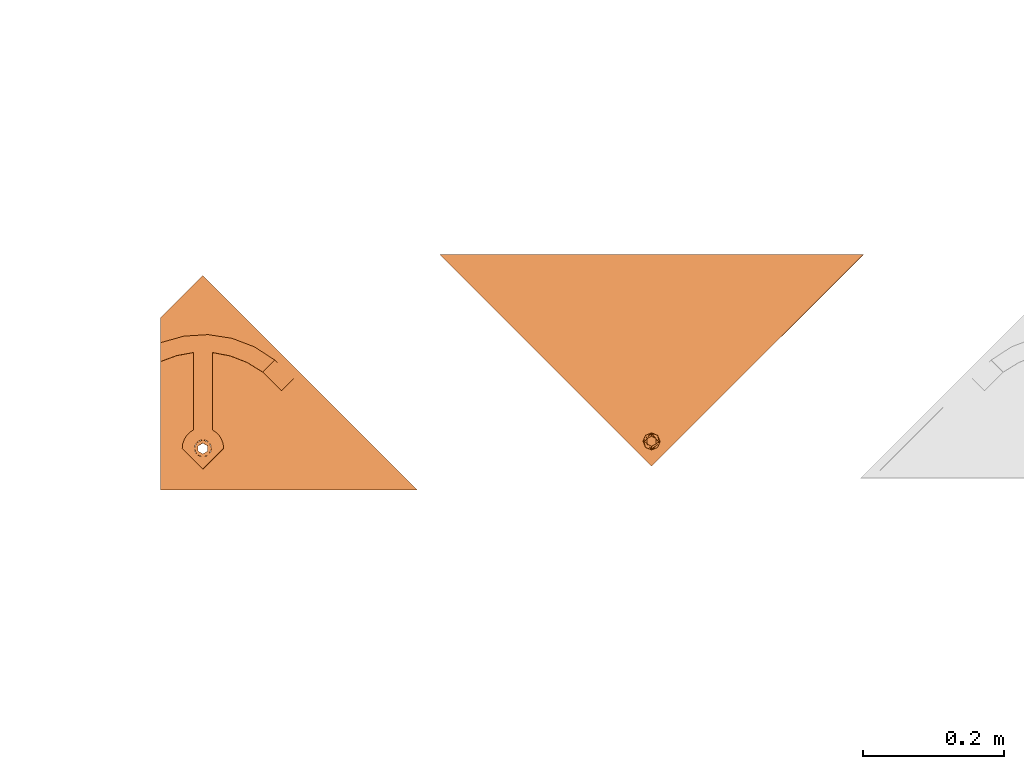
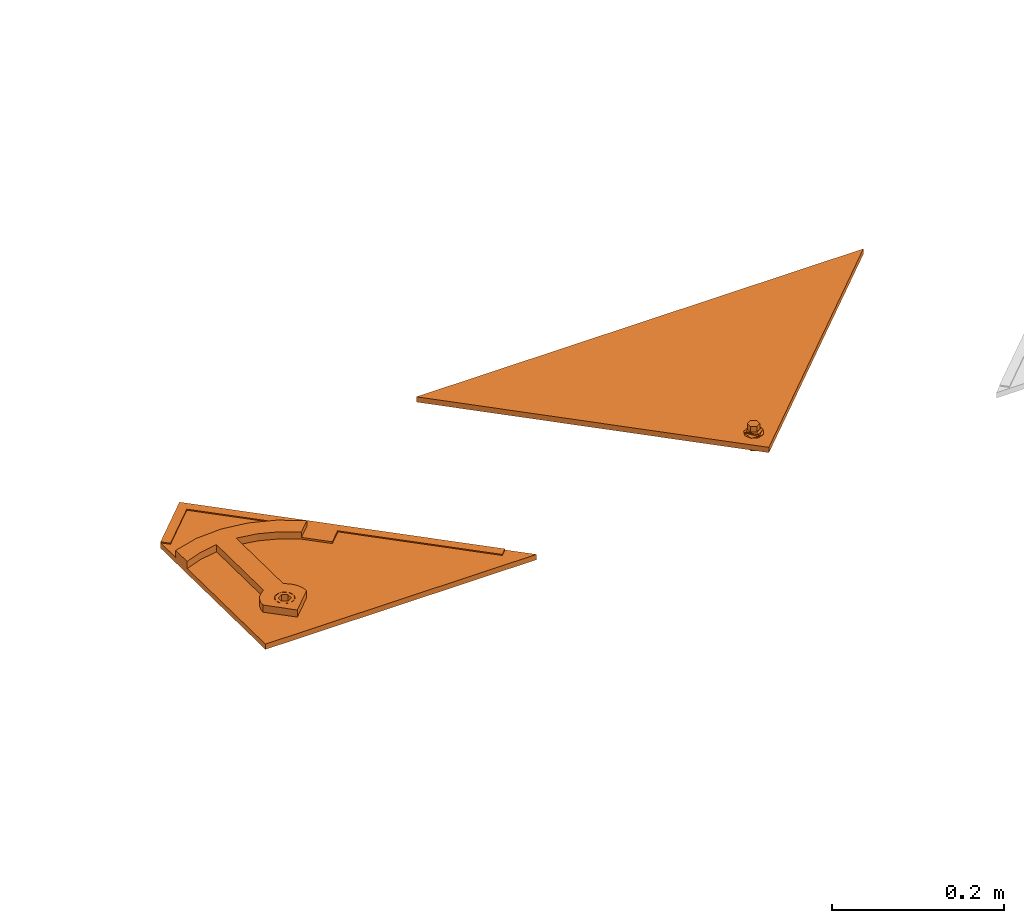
# One storey, part 124 of 151: 2 proxies.
"""IFC2X3 building model written with IfcOpenShell, lengths in millimetres."""

import ifcopenshell
import ifcopenshell.guid

model = None  # the IFC model being written
_history = None  # IfcOwnerHistory: only IFC2X3 demands one
_inside = {}  # id of a spatial element -> (the spatial element, [elements in it])
_under = {}  # id of a project, library or spatial element -> (it, [spatial elements below it])
_declared = {}  # id of a project -> (the project, [libraries it declares])
_typed = {}  # id of a type object -> (the type object, [elements of that type])
_made_of = {}  # id of a material, layer set ... -> (it, [elements and type objects made of it])


def new_model(schema):
    """Start an empty IFC model of exactly this schema.

    Asked for "IFC4X3", IfcOpenShell would pick the latest addendum, in which some entities
    have other attributes; the version numbers below select the first issue.
    IFC2X3 requires an IfcOwnerHistory on every rooted entity: one is made here for all.
    """
    global model, _history
    if schema == "IFC4X3":
        model = ifcopenshell.file(schema_version=(4, 3, 0, 0))
    else:
        model = ifcopenshell.file(schema=schema)
    _inside.clear()
    _under.clear()
    _declared.clear()
    _typed.clear()
    _made_of.clear()
    _history = None
    if model.schema == "IFC2X3":
        org = make("IfcOrganization", Name="unknown")
        user = make(
            "IfcPersonAndOrganization",
            ThePerson=make("IfcPerson", FamilyName="unknown"),
            TheOrganization=org,
        )
        app = make(
            "IfcApplication",
            ApplicationDeveloper=org,
            Version="unknown",
            ApplicationFullName="unknown",
            ApplicationIdentifier="unknown",
        )
        _history = make(
            "IfcOwnerHistory",
            OwningUser=user,
            OwningApplication=app,
            ChangeAction="ADDED",
            CreationDate=0,
        )
    return model


def make(cls, **values):
    """One entity of the class cls with the attributes given. An attribute that is None is left unset."""
    return model.create_entity(
        cls, **{name: value for name, value in values.items() if value is not None}
    )


def entity(cls, *values):
    """Any entity or typed value of the class cls, its attributes in the order of the schema. None: left unset."""
    e = model.create_entity(cls)
    for i, value in enumerate(values):
        if value is not None:
            e[i] = value
    return e


def rooted(cls, **values):
    """An entity with a GlobalId (a new one), such as an element, a storey or a relation."""
    return make(cls, GlobalId=ifcopenshell.guid.new(), OwnerHistory=_history, **values)


def si_unit(unit_type, name, prefix=None):
    """IfcSIUnit, for example si_unit("LENGTHUNIT", "METRE", prefix="MILLI")."""
    return make("IfcSIUnit", UnitType=unit_type, Prefix=prefix, Name=name)


def converted_unit(unit_type, name, factor, base, dimensions=None, offset=None):
    """IfcConversionBasedUnit, such as the inch: factor (a typed value) times the base unit."""
    return make(
        "IfcConversionBasedUnit"
        if offset is None
        else "IfcConversionBasedUnitWithOffset",
        ConversionOffset=offset,
        Dimensions=None
        if dimensions is None
        else entity("IfcDimensionalExponents", *dimensions),
        UnitType=unit_type,
        Name=name,
        ConversionFactor=make(
            "IfcMeasureWithUnit", ValueComponent=factor, UnitComponent=base
        ),
    )


def derived_unit(unit_type, elements):
    """IfcDerivedUnit: a product of units, each with its exponent."""
    return make(
        "IfcDerivedUnit",
        Elements=[
            make("IfcDerivedUnitElement", Unit=unit, Exponent=power)
            for unit, power in elements
        ],
        UnitType=unit_type,
    )


def assignment(units):
    """IfcUnitAssignment: the units of a project."""
    return None if units is None else make("IfcUnitAssignment", Units=units)


def point(xyz):
    """IfcCartesianPoint."""
    return None if xyz is None else make("IfcCartesianPoint", Coordinates=xyz)


def direction(xyz):
    """IfcDirection."""
    return None if xyz is None else make("IfcDirection", DirectionRatios=xyz)


def frame(location, z_axis=None, x_axis=None):
    """IfcAxis2Placement3D, a coordinate frame: its origin and axes. An axis left out is left unset."""
    return make(
        "IfcAxis2Placement3D",
        Location=point(location),
        Axis=direction(z_axis),
        RefDirection=direction(x_axis),
    )


def origin():
    """The frame at (0, 0, 0) with its axes left unset."""
    return frame((0.0, 0.0, 0.0))


def place(relative_to, where):
    """IfcLocalPlacement: puts the frame where relative to a parent placement (None: the world)."""
    return make(
        "IfcLocalPlacement", PlacementRelTo=relative_to, RelativePlacement=where
    )


def context(
    kind, dimensions, precision=None, world=None, true_north=None, identifier=None
):
    """IfcGeometricRepresentationContext, for example the 3D "Model" context."""
    return make(
        "IfcGeometricRepresentationContext",
        ContextIdentifier=identifier,
        ContextType=kind,
        CoordinateSpaceDimension=dimensions,
        Precision=precision,
        WorldCoordinateSystem=world,
        TrueNorth=true_north,
    )


def subcontext(parent, identifier, kind, view, scale=None):
    """IfcGeometricRepresentationSubContext, for example "Body" below "Model"."""
    return make(
        "IfcGeometricRepresentationSubContext",
        ContextIdentifier=identifier,
        ContextType=kind,
        ParentContext=parent,
        TargetScale=scale,
        TargetView=view,
    )


def project(units=None, contexts=None):
    """IfcProject with its units and contexts."""
    return rooted(
        "IfcProject",
        Name="project",
        RepresentationContexts=contexts,
        UnitsInContext=assignment(units),
    )


def spatial(cls, under=None, at=None, **own):
    """A site, building, storey or space (cls), placed at a placement, below another one or the project."""
    s = rooted(cls, ObjectPlacement=at, **own)
    if under is not None:
        _under.setdefault(under.id(), (under, []))[1].append(s)
    return s


def faces_of(points, faces, orient=None, outer=None):
    """IfcFace entities. A face is a list of loops; a loop is a list of indices into points, from 0.

    orient and outer hold one flag for each loop. By default every Orientation is true, the
    first loop of a face is its IfcFaceOuterBound and the others are IfcFaceBound.
    """
    made = []
    for i, loops in enumerate(faces):
        bounds = []
        for j, loop in enumerate(loops):
            is_outer = j == 0 if outer is None else outer[i][j]
            bounds.append(
                make(
                    "IfcFaceOuterBound" if is_outer else "IfcFaceBound",
                    Bound=make("IfcPolyLoop", Polygon=[points[k] for k in loop]),
                    Orientation=True if orient is None else orient[i][j],
                )
            )
        made.append(make("IfcFace", Bounds=bounds))
    return made


def faceted_brep(points, faces, orient=None, outer=None, voids=None):
    """IfcFacetedBrep: a solid bounded by flat faces; with voids (closed shells), ...WithVoids."""
    shared = [point(p) for p in points]
    hull = make("IfcClosedShell", CfsFaces=faces_of(shared, faces, orient, outer))
    if voids is None:
        return make("IfcFacetedBrep", Outer=hull)
    return make(
        "IfcFacetedBrepWithVoids",
        Outer=hull,
        Voids=[
            make(cls, CfsFaces=faces_of(shared, fs, o, b)) for cls, fs, o, b in voids
        ],
    )


def shape(context_of_items, identifier, shape_type, items):
    """IfcShapeRepresentation: the items that make up one representation, for example the "Body"."""
    return make(
        "IfcShapeRepresentation",
        ContextOfItems=context_of_items,
        RepresentationIdentifier=identifier,
        RepresentationType=shape_type,
        Items=items,
    )


def source(mapping_origin, context_of_items, identifier, shape_type, items):
    """IfcRepresentationMap: a shape defined once, which mapped items show again and again."""
    return make(
        "IfcRepresentationMap",
        MappingOrigin=mapping_origin,
        MappedRepresentation=shape(context_of_items, identifier, shape_type, items),
    )


def transform(
    local_origin,
    x_axis=None,
    y_axis=None,
    z_axis=None,
    scale=None,
    scale2=None,
    scale3=None,
    uniform=True,
):
    """IfcCartesianTransformationOperator3D, or its non-uniform kind. x_axis, y_axis, z_axis: its Axis1, 2, 3."""
    if uniform:
        return make(
            "IfcCartesianTransformationOperator3D",
            Axis1=direction(x_axis),
            Axis2=direction(y_axis),
            LocalOrigin=point(local_origin),
            Scale=scale,
            Axis3=direction(z_axis),
        )
    return make(
        "IfcCartesianTransformationOperator3DnonUniform",
        Axis1=direction(x_axis),
        Axis2=direction(y_axis),
        LocalOrigin=point(local_origin),
        Scale=scale,
        Axis3=direction(z_axis),
        Scale2=scale2,
        Scale3=scale3,
    )


def mapped(mapping_source, mapping_target):
    """IfcMappedItem: shows the shape of a source again, moved by a transform."""
    return make(
        "IfcMappedItem", MappingSource=mapping_source, MappingTarget=mapping_target
    )


def material(Name=None, Category=None):
    """IfcMaterial."""
    return make("IfcMaterial", Name=Name, Category=Category)


def material_list(materials):
    """IfcMaterialList."""
    return make("IfcMaterialList", Materials=materials)


def made_of(thing, what):
    """Note that an element or type object is made of a material, layer set ...; save() writes the relation."""
    if what is not None:
        _made_of.setdefault(what.id(), (what, []))[1].append(thing)
    return thing


def type_object(cls, material=None, **own):
    """A type object (cls), such as IfcWallType, which elements share."""
    return made_of(rooted(cls, **own), material)


def type_shapes(of_type, sources):
    """Give a type object the sources (RepresentationMaps) that its elements show as mapped items."""
    of_type.RepresentationMaps = sources


def element(
    cls,
    number,
    at=None,
    inside=None,
    cuts=None,
    type_object=None,
    material=None,
    context=None,
    identifier="Body",
    shape_type=None,
    held_by="IfcProductDefinitionShape",
    body=None,
    shapes=None,
    **own,
):
    """One element of the class cls, such as IfcWall. Its Tag is "e" and its number.

    at: its placement. inside: the storey or other place that contains it. cuts: it is an
    opening in that element (IfcRelVoidsElement). A single representation is given by context,
    identifier, shape_type and body (its items); several are given by shapes. held_by: the class
    of the entity that holds the representations. save() writes the other relations.
    """
    e = rooted(cls, Tag="e%d" % number, ObjectPlacement=at, **own)
    if body is not None:
        shapes = [shape(context, identifier, shape_type, body)]
    if shapes is not None:
        e.Representation = make(held_by, Representations=shapes)
    if inside is not None:
        _inside.setdefault(inside.id(), (inside, []))[1].append(e)
    if cuts is not None:
        rooted(
            "IfcRelVoidsElement", RelatingBuildingElement=cuts, RelatedOpeningElement=e
        )
    if type_object is not None:
        _typed.setdefault(type_object.id(), (type_object, []))[1].append(e)
    return made_of(e, material)


def aggregate(whole, parts):
    """IfcRelAggregates: a whole, such as a stair, and the parts it consists of."""
    return rooted("IfcRelAggregates", RelatingObject=whole, RelatedObjects=parts)


def save(model, path):
    """Write the relations noted so far, then the file.

    IfcRelAggregates (storeys below a building ...), IfcRelContainedInSpatialStructure (elements
    in a storey), IfcRelDefinesByType, IfcRelAssociatesMaterial and IfcRelDeclares: one each for
    every whole, place, type object, material and project.
    """
    for whole, parts in _under.values():
        aggregate(whole, parts)
    for where, things in _inside.values():
        rooted(
            "IfcRelContainedInSpatialStructure",
            RelatedElements=things,
            RelatingStructure=where,
        )
    for kind, things in _typed.values():
        rooted("IfcRelDefinesByType", RelatedObjects=things, RelatingType=kind)
    for what, things in _made_of.values():
        rooted("IfcRelAssociatesMaterial", RelatedObjects=things, RelatingMaterial=what)
    for by, libraries in _declared.values():
        rooted("IfcRelDeclares", RelatingContext=by, RelatedDefinitions=libraries)
    model.write(path)


model = new_model("IFC2X3")

# Units and contexts
model_context = context("Model", 3, precision=0.01, world=origin(), true_north=direction((6.12303176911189e-17, 1.0)))
body_context = subcontext(model_context, "Body", "Model", "MODEL_VIEW")
ifc_project = project(units=[si_unit("LENGTHUNIT", "METRE", prefix="MILLI"), si_unit("AREAUNIT", "SQUARE_METRE"), si_unit("VOLUMEUNIT", "CUBIC_METRE"), converted_unit("PLANEANGLEUNIT", "DEGREE", entity("IfcRatioMeasure", 0.0174532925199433), si_unit("PLANEANGLEUNIT", "RADIAN"), dimensions=[0, 0, 0, 0, 0, 0, 0]), si_unit("MASSUNIT", "GRAM", prefix="KILO"), derived_unit("MASSDENSITYUNIT", [(si_unit("MASSUNIT", "GRAM", prefix="KILO"), 1), (si_unit("LENGTHUNIT", "METRE"), -3)]), si_unit("TIMEUNIT", "SECOND"), si_unit("FREQUENCYUNIT", "HERTZ"), si_unit("THERMODYNAMICTEMPERATUREUNIT", "DEGREE_CELSIUS"), derived_unit("THERMALTRANSMITTANCEUNIT", [(si_unit("MASSUNIT", "GRAM", prefix="KILO"), 1), (si_unit("THERMODYNAMICTEMPERATUREUNIT", "KELVIN"), -1), (si_unit("TIMEUNIT", "SECOND"), -3)]), derived_unit("VOLUMETRICFLOWRATEUNIT", [(si_unit("LENGTHUNIT", "METRE"), 3), (si_unit("TIMEUNIT", "SECOND"), -1)]), si_unit("ELECTRICCURRENTUNIT", "AMPERE"), si_unit("ELECTRICVOLTAGEUNIT", "VOLT"), si_unit("POWERUNIT", "WATT"), si_unit("FORCEUNIT", "NEWTON", prefix="KILO"), si_unit("ILLUMINANCEUNIT", "LUX"), si_unit("LUMINOUSFLUXUNIT", "LUMEN"), si_unit("LUMINOUSINTENSITYUNIT", "CANDELA"), derived_unit("USERDEFINED", [(si_unit("MASSUNIT", "GRAM", prefix="KILO"), -1), (si_unit("LENGTHUNIT", "METRE"), -2), (si_unit("TIMEUNIT", "SECOND"), 3), (si_unit("LUMINOUSFLUXUNIT", "LUMEN"), 1)]), derived_unit("LINEARVELOCITYUNIT", [(si_unit("LENGTHUNIT", "METRE"), 1), (si_unit("TIMEUNIT", "SECOND"), -1)]), si_unit("PRESSUREUNIT", "PASCAL"), derived_unit("USERDEFINED", [(si_unit("LENGTHUNIT", "METRE"), -2), (si_unit("MASSUNIT", "GRAM", prefix="KILO"), 1), (si_unit("TIMEUNIT", "SECOND"), -2)])], contexts=[model_context])

# Site, building, storey
site_placement = place(None, origin())
site = spatial("IfcSite", under=ifc_project, at=site_placement, Name="Default", CompositionType="ELEMENT")
building_placement = place(site_placement, origin())
building = spatial("IfcBuilding", under=site, at=building_placement, CompositionType="ELEMENT")
storey_placement = place(building_placement, origin())
storey = spatial("IfcBuildingStorey", under=building, at=storey_placement, Name="Level 1", CompositionType="ELEMENT", Elevation=0.0)

# Proxies
ifc_material_1 = material(Name="Rubber - Sunstyle - Black")
ifc_material_2 = material(Name="Glass - Sunstyle - Tainted Black")
ifc_material_list_1 = material_list([ifc_material_1, ifc_material_2])
ifc_material_list_2 = material_list([ifc_material_1, ifc_material_2])
building_element_proxy_type_1 = type_object("IfcBuildingElementProxyType", Name="Corner Bottom Small Left - Black", PredefinedType="NOTDEFINED", material=ifc_material_list_2)
shared_shape_1 = source(origin(), body_context, "Body", "Brep", [
    faceted_brep([(330.847757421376, 18.4932261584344, 12.2894055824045), (339.332443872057, 26.9779126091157, 12.1473081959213), (339.332443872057, 27.0030303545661, 13.6470978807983), (330.847757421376, 18.5183439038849, 13.7891952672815), (61.6993486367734, 287.566165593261, 7.7831033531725), (10.0799586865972, 235.961249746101, 8.64735729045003), (1.59527223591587, 244.445936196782, 8.50525990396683), (61.6993486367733, 304.533159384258, 7.49894842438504), (61.6993486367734, 304.558277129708, 8.9987381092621), (1.59527223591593, 244.471053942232, 10.0050495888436), (10.0799586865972, 235.986367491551, 10.147146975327), (61.6993486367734, 287.591283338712, 9.2828930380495)], [[[0, 1, 2, 3]], [[1, 0, 4, 5, 6, 7]], [[2, 1, 7, 8]], [[3, 2, 8, 9, 10, 11]], [[0, 3, 11, 4]], [[5, 10, 9, 6]], [[8, 7, 6, 9]], [[4, 11, 10, 5]]]),
    faceted_brep([(61.6990261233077, 46.946835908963, 21.8142807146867), (61.6990261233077, 51.4462045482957, 21.7389274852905), (53.0953219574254, 50.5101071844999, 21.7546047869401), (70.3027302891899, 50.5101071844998, 21.7546047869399), (68.3392547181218, 55.2794047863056, 21.6747309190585), (73.8665012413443, 59.1126050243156, 21.6105343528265), (68.3392547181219, 62.9458052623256, 21.5463377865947), (70.30273028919, 67.7151028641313, 21.4664639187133), (61.6990261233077, 66.7790055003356, 21.4821412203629), (61.6990261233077, 71.2783741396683, 21.4067879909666), (53.0953219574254, 67.7151028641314, 21.4664639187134), (55.0587975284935, 62.9458052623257, 21.5463377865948), (49.5315510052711, 59.1126050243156, 21.6105343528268), (55.0587975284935, 55.2794047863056, 21.6747309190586), (55.0587978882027, 62.6778824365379, 5.54858115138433), (61.6990261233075, 66.5110824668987, 5.48438458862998), (55.0587978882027, 55.0114823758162, 5.6769742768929), (61.6990261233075, 51.1782823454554, 5.74117083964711), (68.3392543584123, 55.0114823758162, 5.67697427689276), (68.3392543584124, 62.6778824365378, 5.5485811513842), (53.0953219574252, 50.2421845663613, 5.75684814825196), (61.6990261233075, 46.6789132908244, 5.81652407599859), (49.5315510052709, 58.844682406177, 5.61277771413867), (53.0953219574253, 67.4471802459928, 5.4687072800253), (61.6990261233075, 71.0104515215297, 5.4090313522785), (70.3027302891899, 67.4471802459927, 5.46870728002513), (73.8665012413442, 58.844682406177, 5.61277771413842), (70.3027302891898, 50.2421845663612, 5.75684814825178)], [[[0, 1, 2]], [[1, 0, 3]], [[3, 4, 1]], [[4, 3, 5]], [[6, 4, 5]], [[5, 7, 6]], [[7, 8, 6]], [[8, 7, 9]], [[8, 9, 10]], [[10, 11, 8]], [[12, 11, 10]], [[2, 13, 12]], [[12, 13, 11]], [[13, 2, 1]], [[8, 11, 14, 15]], [[11, 13, 16, 14]], [[13, 1, 17, 16]], [[1, 4, 18, 17]], [[4, 6, 19, 18]], [[6, 8, 15, 19]], [[20, 17, 21]], [[17, 20, 16]], [[22, 16, 20]], [[14, 16, 22]], [[23, 14, 22]], [[15, 14, 23]], [[23, 24, 15]], [[24, 25, 15]], [[19, 15, 25]], [[19, 25, 26]], [[26, 18, 19]], [[26, 27, 18]], [[17, 18, 27]], [[27, 21, 17]], [[24, 23, 10, 9]], [[10, 23, 22, 12]], [[20, 21, 0, 2]], [[20, 2, 12, 22]], [[21, 27, 3, 0]], [[3, 27, 26, 5]], [[25, 24, 9, 7]], [[25, 7, 5, 26]]]),
    faceted_brep([(1.59527223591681, 244.445936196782, 8.50525990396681), (58.5931975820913, 70.7020897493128, 11.4150370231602), (61.6990261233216, 71.1109225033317, 11.4081900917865), (55.6990261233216, 69.5034527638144, 11.4351112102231), (64.8048546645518, 70.7020897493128, 11.4150370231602), (53.213744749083, 67.596696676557, 11.4670446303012), (51.3067212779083, 65.1117637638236, 11.5086610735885), (1.5952722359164, 0.125588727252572, 12.5970178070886), (67.6990261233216, 69.5034527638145, 11.4351112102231), (61.6993486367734, 304.533159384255, 7.49894842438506), (50.1079162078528, 62.2179980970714, 11.5571244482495), (49.6990261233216, 59.1126050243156, 11.6091320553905), (50.1079162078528, 56.0072119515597, 11.6611396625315), (51.3067212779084, 53.1134462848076, 11.7096030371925), (53.2137447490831, 50.6285133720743, 11.7512194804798), (55.6990261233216, 48.7217572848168, 11.7831529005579), (58.5931975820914, 47.5231202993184, 11.8032270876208), (61.6990261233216, 47.1142875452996, 11.8100740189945), (64.8048546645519, 47.5231202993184, 11.8032270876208), (67.6990261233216, 48.7217572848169, 11.7831529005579), (366.192299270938, 0.125588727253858, 12.5970178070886), (72.0913309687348, 65.1117637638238, 11.5086610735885), (73.2901360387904, 62.2179980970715, 11.5571244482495), (73.6990261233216, 59.1126050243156, 11.6091320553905), (70.1843074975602, 50.6285133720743, 11.7512194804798), (72.0913309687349, 53.1134462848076, 11.7096030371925), (73.2901360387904, 56.0072119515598, 11.6611396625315), (70.1843074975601, 67.596696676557, 11.4670446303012), (1.5952722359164, 0.0, 5.09806938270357), (55.6990261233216, 48.5961685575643, 4.2842044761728), (58.5931975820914, 47.3975315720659, 4.30427866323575), (53.2137447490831, 50.5029246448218, 4.25227105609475), (61.6990261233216, 46.9886988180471, 4.3111255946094), (51.3067212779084, 52.9878575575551, 4.21065461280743), (50.1079162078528, 55.8816232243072, 4.16219123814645), (49.6990261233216, 58.9870162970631, 4.11018363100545), (50.1079162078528, 62.0924093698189, 4.05817602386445), (64.8048546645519, 47.3975315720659, 4.30427866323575), (67.6990261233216, 48.5961685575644, 4.2842044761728), (366.192299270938, 0.0, 5.09806938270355), (51.3067212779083, 64.9861750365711, 4.00971264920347), (1.59527223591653, 244.320347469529, 1.00631147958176), (53.213744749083, 67.4711079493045, 3.96809620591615), (55.6990261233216, 69.3778640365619, 3.93616278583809), (58.5931975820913, 70.5765010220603, 3.91608859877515), (61.6990261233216, 70.9853337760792, 3.90924166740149), (64.8048546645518, 70.5765010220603, 3.91608859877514), (67.6990261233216, 69.377864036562, 3.93616278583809), (61.6993486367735, 304.407570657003, 0.0), (72.0913309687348, 64.9861750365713, 4.00971264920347), (70.1843074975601, 67.4711079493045, 3.96809620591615), (70.1843074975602, 50.5029246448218, 4.25227105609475), (72.0913309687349, 52.9878575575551, 4.21065461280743), (73.2901360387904, 55.8816232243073, 4.16219123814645), (73.6990261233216, 58.9870162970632, 4.11018363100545), (73.2901360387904, 62.092409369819, 4.05817602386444)], [[[0, 1, 2]], [[1, 0, 3]], [[0, 2, 4]], [[5, 3, 0]], [[6, 5, 0]], [[6, 0, 7]], [[8, 0, 4]], [[0, 8, 9]], [[7, 10, 6]], [[11, 10, 7]], [[12, 11, 7]], [[13, 12, 7]], [[7, 14, 13]], [[14, 7, 15]], [[16, 15, 7]], [[7, 17, 16]], [[17, 7, 18]], [[19, 18, 7]], [[20, 19, 7]], [[9, 21, 20]], [[20, 21, 22]], [[20, 22, 23]], [[19, 20, 24]], [[25, 24, 20]], [[26, 25, 20]], [[26, 20, 23]], [[9, 8, 27]], [[27, 21, 9]], [[28, 29, 30]], [[29, 28, 31]], [[28, 30, 32]], [[33, 31, 28]], [[34, 33, 28]], [[35, 34, 28]], [[28, 36, 35]], [[37, 28, 32]], [[37, 38, 28]], [[28, 38, 39]], [[36, 28, 40]], [[28, 41, 40]], [[42, 40, 41]], [[41, 43, 42]], [[43, 41, 44]], [[45, 44, 41]], [[41, 46, 45]], [[41, 47, 46]], [[47, 41, 48]], [[49, 48, 39]], [[50, 47, 48]], [[48, 49, 50]], [[38, 51, 39]], [[51, 52, 39]], [[52, 53, 39]], [[39, 53, 54]], [[55, 39, 54]], [[49, 39, 55]], [[11, 35, 36, 10]], [[10, 36, 40, 6]], [[3, 5, 42, 43]], [[40, 42, 5, 6]], [[1, 3, 43, 44]], [[45, 2, 1, 44]], [[4, 46, 47, 8]], [[8, 47, 50, 27]], [[22, 21, 49, 55]], [[50, 49, 21, 27]], [[23, 22, 55, 54]], [[4, 2, 45, 46]], [[23, 54, 53, 26]], [[26, 53, 52, 25]], [[19, 24, 51, 38]], [[52, 51, 24, 25]], [[18, 19, 38, 37]], [[32, 17, 18, 37]], [[16, 30, 29, 15]], [[15, 29, 31, 14]], [[12, 13, 33, 34]], [[31, 33, 13, 14]], [[11, 12, 34, 35]], [[16, 17, 32, 30]], [[0, 9, 48, 41]], [[7, 0, 41, 28]], [[20, 7, 28, 39]], [[9, 20, 39, 48]]]),
    faceted_brep([(1.59527223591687, 209.239382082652, 19.0962843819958), (1.59527223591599, 182.513149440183, 19.5438822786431), (24.4390403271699, 190.969673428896, 19.4022565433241), (34.6448586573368, 218.551914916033, 18.9403226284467), (48.3990261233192, 195.36105911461, 19.3287117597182), (68.9162632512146, 220.671424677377, 18.9048261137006), (74.999026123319, 195.361059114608, 19.3287117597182), (74.99902612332, 85.4841763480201, 21.1688761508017), (48.3990261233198, 85.4841763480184, 21.1688761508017), (61.6990261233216, 71.2783741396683, 21.4067879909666), (58.5931975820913, 70.8695413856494, 21.4136349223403), (55.6990261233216, 69.670904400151, 21.4337091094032), (42.9949199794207, 81.9461281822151, 21.2281296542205), (53.213744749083, 67.7641483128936, 21.4656425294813), (38.4943757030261, 77.3131226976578, 21.3057209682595), (51.3067212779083, 65.2792154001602, 21.5072589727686), (35.1148065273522, 71.8089720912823, 21.397901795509), (50.1079162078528, 62.385449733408, 21.5557223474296), (33.0194733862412, 65.6995720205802, 21.5002190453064), (49.6990261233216, 59.2800566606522, 21.6077299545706), (32.3095980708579, 59.2800566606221, 21.6077299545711), (50.1079162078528, 56.1746635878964, 21.6597375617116), (51.3067212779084, 53.2808979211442, 21.7082009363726), (53.2137447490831, 50.7959650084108, 21.7498173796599), (61.6990261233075, 29.8947493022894, 22.0998607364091), (55.6990261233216, 48.8892089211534, 21.7817507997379), (58.5931975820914, 47.690571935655, 21.8018249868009), (61.6990261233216, 47.2817391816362, 21.8086719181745), (64.8048546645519, 47.690571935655, 21.8018249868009), (67.6990261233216, 48.8892089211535, 21.7817507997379), (70.1843074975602, 50.7959650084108, 21.7498173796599), (91.0884541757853, 59.2800566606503, 21.6077299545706), (72.0913309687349, 53.2808979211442, 21.7082009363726), (73.2901360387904, 56.1746635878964, 21.6597375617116), (73.6990261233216, 59.2800566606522, 21.6077299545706), (90.3785788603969, 65.699572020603, 21.500219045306), (73.2901360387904, 62.3854497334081, 21.5557223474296), (88.2832457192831, 71.8089720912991, 21.3979017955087), (72.0913309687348, 65.2792154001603, 21.5072589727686), (84.9036765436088, 77.3131226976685, 21.3057209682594), (70.1843074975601, 67.7641483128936, 21.4656425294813), (80.4031322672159, 81.9461281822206, 21.2281296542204), (67.6990261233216, 69.6709044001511, 21.4337091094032), (64.8048546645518, 70.8695413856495, 21.4136349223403), (102.861723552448, 215.50219023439, 18.9913979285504), (100.468768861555, 190.546178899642, 19.4093490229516), (134.948197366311, 203.277664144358, 19.1961283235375), (124.623359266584, 181.142545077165, 19.5668364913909), (146.643422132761, 167.469148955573, 19.7958318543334), (163.72659789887, 184.549929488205, 19.5097712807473), (51.3067212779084, 53.1134462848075, 11.7096030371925), (32.3095980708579, 59.1126050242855, 11.609132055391), (50.1079162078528, 56.0072119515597, 11.6611396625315), (53.2137447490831, 50.6285133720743, 11.7512194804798), (61.6990261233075, 29.7272976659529, 12.1012628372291), (55.6990261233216, 48.7217572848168, 11.7831529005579), (58.5931975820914, 47.5231202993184, 11.8032270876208), (61.6990261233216, 47.1142875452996, 11.8100740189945), (64.8048546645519, 47.5231202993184, 11.8032270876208), (67.6990261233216, 48.7217572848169, 11.7831529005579), (70.1843074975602, 50.6285133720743, 11.7512194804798), (91.0884541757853, 59.1126050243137, 11.6091320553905), (72.0913309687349, 53.1134462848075, 11.7096030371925), (73.2901360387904, 56.0072119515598, 11.6611396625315), (73.6990261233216, 59.1126050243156, 11.6091320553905), (90.3785788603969, 65.5321203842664, 11.5016211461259), (73.2901360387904, 62.2179980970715, 11.5571244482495), (88.2832457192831, 71.6415204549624, 11.3993038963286), (72.0913309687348, 65.1117637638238, 11.5086610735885), (84.9036765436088, 77.1456710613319, 11.3071230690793), (70.1843074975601, 67.596696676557, 11.4670446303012), (80.4031322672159, 81.778676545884, 11.2295317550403), (67.6990261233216, 69.5034527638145, 11.4351112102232), (74.99902612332, 85.3167247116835, 11.1702782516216), (64.8048546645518, 70.7020897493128, 11.4150370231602), (61.6990261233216, 71.1109225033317, 11.4081900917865), (48.39902612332, 85.3167247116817, 11.1702782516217), (58.5931975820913, 70.7020897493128, 11.4150370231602), (55.6990261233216, 69.5034527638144, 11.4351112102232), (42.9949199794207, 81.7786765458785, 11.2295317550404), (53.213744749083, 67.596696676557, 11.4670446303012), (38.4943757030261, 77.1456710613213, 11.3071230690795), (51.3067212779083, 65.1117637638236, 11.5086610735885), (35.1148065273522, 71.6415204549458, 11.3993038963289), (50.1079162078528, 62.2179980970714, 11.5571244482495), (33.0194733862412, 65.5321203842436, 11.5016211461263), (49.6990261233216, 59.1126050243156, 11.6091320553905), (48.3990261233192, 195.193607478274, 9.33011386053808), (74.99902612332, 195.193607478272, 9.33011386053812), (68.9162632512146, 220.50397304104, 8.90622821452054), (34.6448586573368, 218.384463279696, 8.94172472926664), (24.4390403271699, 190.802221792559, 9.40365864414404), (1.59527223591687, 209.071930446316, 9.09768648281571), (1.59527223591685, 182.345697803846, 9.545284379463), (102.861723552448, 215.334738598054, 8.99280002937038), (100.468768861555, 190.378727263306, 9.4107511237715), (134.948197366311, 203.110212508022, 9.19753042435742), (124.623359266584, 180.975093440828, 9.5682385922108), (146.643422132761, 167.301697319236, 9.79723395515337), (163.72659789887, 184.382477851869, 9.51117338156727), (169.978999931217, 179.020830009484, 9.60096764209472), (175.949995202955, 173.347554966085, 9.69598088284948), (172.968069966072, 140.980740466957, 10.2380444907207), (190.645739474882, 158.655931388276, 9.94202902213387), (190.645739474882, 158.69779429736, 12.4416784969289), (172.968069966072, 141.022603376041, 12.7376939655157), (163.72659789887, 184.424340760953, 12.0108228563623), (146.643422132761, 167.34356022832, 12.2968834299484), (175.949995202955, 173.38941787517, 12.1956303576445), (169.978999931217, 179.062692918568, 12.1006171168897)], [[[0, 1, 2]], [[0, 2, 3]], [[2, 4, 3]], [[3, 4, 5]], [[5, 4, 6]], [[7, 6, 4]], [[7, 4, 8]], [[9, 7, 8]], [[9, 8, 10]], [[10, 8, 11]], [[12, 11, 8]], [[11, 12, 13]], [[14, 13, 12]], [[13, 14, 15]], [[15, 14, 16]], [[17, 15, 16]], [[18, 17, 16]], [[18, 19, 17]], [[19, 18, 20]], [[20, 21, 19]], [[20, 22, 21]], [[22, 20, 23]], [[23, 20, 24]], [[24, 25, 23]], [[26, 25, 24]], [[24, 27, 26]], [[28, 27, 24]], [[28, 24, 29]], [[30, 29, 24]], [[30, 24, 31]], [[31, 32, 30]], [[33, 32, 31]], [[31, 34, 33]], [[35, 34, 31]], [[34, 35, 36]], [[36, 35, 37]], [[36, 37, 38]], [[38, 37, 39]], [[39, 40, 38]], [[39, 41, 40]], [[7, 42, 41]], [[40, 41, 42]], [[42, 7, 43]], [[43, 7, 9]], [[44, 5, 6]], [[44, 6, 45]], [[45, 46, 44]], [[46, 45, 47]], [[47, 48, 46]], [[49, 46, 48]], [[50, 51, 52]], [[51, 50, 53]], [[51, 53, 54]], [[54, 53, 55]], [[55, 56, 54]], [[57, 54, 56]], [[54, 57, 58]], [[54, 58, 59]], [[59, 60, 54]], [[54, 60, 61]], [[61, 60, 62]], [[62, 63, 61]], [[64, 61, 63]], [[61, 64, 65]], [[66, 65, 64]], [[67, 65, 66]], [[67, 66, 68]], [[67, 68, 69]], [[69, 68, 70]], [[71, 69, 70]], [[70, 72, 71]], [[73, 71, 72]], [[74, 73, 72]], [[73, 74, 75]], [[76, 73, 75]], [[75, 77, 76]], [[76, 77, 78]], [[79, 76, 78]], [[78, 80, 79]], [[81, 79, 80]], [[81, 80, 82]], [[82, 83, 81]], [[82, 84, 83]], [[84, 85, 83]], [[86, 85, 84]], [[52, 51, 86]], [[85, 86, 51]], [[87, 73, 76]], [[88, 73, 87]], [[88, 87, 89]], [[90, 89, 87]], [[87, 91, 90]], [[91, 92, 90]], [[93, 92, 91]], [[88, 89, 94]], [[88, 94, 95]], [[96, 95, 94]], [[96, 97, 95]], [[97, 96, 98]], [[96, 99, 98]], [[98, 99, 100]], [[98, 100, 101]], [[101, 102, 98]], [[102, 101, 103]], [[8, 4, 87, 76]], [[12, 8, 76, 79]], [[14, 12, 79, 81]], [[81, 83, 16, 14]], [[18, 16, 83, 85]], [[20, 18, 85, 51]], [[24, 20, 51, 54]], [[31, 24, 54, 61]], [[104, 105, 102, 103]], [[35, 31, 61, 65]], [[37, 35, 65, 67]], [[67, 69, 39, 37]], [[41, 39, 69, 71]], [[7, 41, 71, 73]], [[6, 7, 73, 88]], [[106, 99, 96, 46, 49]], [[46, 96, 94, 44]], [[5, 44, 94, 89]], [[3, 5, 89, 90]], [[92, 0, 3, 90]], [[19, 86, 84, 17]], [[17, 84, 82, 15]], [[11, 13, 80, 78]], [[82, 80, 13, 15]], [[10, 11, 78, 77]], [[75, 9, 10, 77]], [[43, 74, 72, 42]], [[42, 72, 70, 40]], [[36, 38, 68, 66]], [[70, 68, 38, 40]], [[34, 36, 66, 64]], [[43, 9, 75, 74]], [[34, 64, 63, 33]], [[33, 63, 62, 32]], [[29, 30, 60, 59]], [[62, 60, 30, 32]], [[28, 29, 59, 58]], [[57, 27, 28, 58]], [[26, 56, 55, 25]], [[25, 55, 53, 23]], [[21, 22, 50, 52]], [[53, 50, 22, 23]], [[19, 21, 52, 86]], [[26, 27, 57, 56]], [[49, 48, 107, 106]], [[93, 91, 2, 1]], [[87, 4, 2, 91]], [[88, 95, 45, 6]], [[95, 97, 47, 45]], [[107, 48, 47, 97, 98]], [[1, 0, 92, 93]], [[104, 108, 109, 106, 107, 105]], [[108, 104, 103, 101]], [[108, 101, 100, 109]], [[100, 99, 106, 109]], [[105, 107, 98, 102]]]),
])
type_shapes(building_element_proxy_type_1, [shared_shape_1])
proxy_1_placement = place(storey_placement, frame((-1032.71055926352, 8459.93507104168, -1.49476068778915)))
element("IfcBuildingElementProxy", 1, at=proxy_1_placement, inside=storey, type_object=building_element_proxy_type_1, material=ifc_material_list_1, Name="Roofing_Panels_SunStyle_Tile_Corner-Bottom-Small-Left:Corner Bottom Small Left - Black", ObjectType="Roofing_Panels_SunStyle_Tile_Corner-Bottom-Small-Left:Corner Bottom Small Left - Black", context=body_context, shape_type="MappedRepresentation", body=[
    mapped(shared_shape_1, transform((0.0, 0.0, 0.0), scale=1.0)),
])
ifc_material_list_3 = material_list([ifc_material_1, ifc_material_2])
ifc_material_list_4 = material_list([ifc_material_1, ifc_material_2])
building_element_proxy_type_2 = type_object("IfcBuildingElementProxyType", Name="Shingle Top Small - Black", PredefinedType="NOTDEFINED", material=ifc_material_list_4)
shared_shape_2 = source(origin(), body_context, "Body", "Brep", [
    faceted_brep([(300.675008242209, 41.77298489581, 1.59527223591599), (294.900805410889, 38.4397147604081, 1.65109621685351), (294.900805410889, 38.8080238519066, 23.6429655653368), (300.675008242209, 42.1412939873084, 23.5871415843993), (294.900805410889, 31.7731744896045, 1.76274417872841), (294.900805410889, 32.1414835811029, 23.7546135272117), (300.675008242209, 28.4399043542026, 1.81856815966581), (300.675008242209, 28.808213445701, 23.8104375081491), (306.44921107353, 31.7731744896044, 1.7627441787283), (306.44921107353, 32.1414835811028, 23.7546135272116), (306.44921107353, 38.4397147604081, 1.65109621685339), (306.44921107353, 38.8080238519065, 23.6429655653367), (292.071304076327, 26.8722558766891, 23.8428599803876), (300.675008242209, 23.3089846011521, 23.9025359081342), (288.507533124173, 35.4747537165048, 23.6987895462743), (292.071304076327, 44.0772515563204, 23.5547191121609), (300.675008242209, 47.6405228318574, 23.4950431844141), (309.278712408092, 44.0772515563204, 23.5547191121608), (312.842483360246, 35.4747537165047, 23.6987895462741), (309.278712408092, 26.872255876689, 23.8428599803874), (289.350763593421, 37.7698308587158, 26.0116314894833), (290.91853368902, 35.5457686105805, 27.9391141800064), (300.67500824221, 42.8588438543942, 28.5718145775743), (300.67500824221, 44.0993414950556, 27.9914679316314), (300.675008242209, 46.2568923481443, 26.98209285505), (300.675008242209, 23.8650286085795, 25.1775938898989), (300.675008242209, 24.8086052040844, 27.3412982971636), (300.675008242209, 28.2579809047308, 28.8163427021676), (300.675008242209, 47.1274867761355, 24.7880055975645), (294.35176254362, 31.9081966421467, 28.7552106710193), (294.35176254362, 39.2086281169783, 28.6329466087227), (311.999252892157, 33.2584106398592, 26.0871865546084), (310.523888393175, 34.4713621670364, 27.8602460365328), (306.998253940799, 39.2086281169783, 28.6329466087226), (306.998253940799, 31.9081966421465, 28.7552106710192), (294.35176254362, 32.0422251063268, 36.7580988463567), (300.67500824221, 28.3920093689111, 36.8192308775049), (300.67500824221, 35.6924408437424, 36.6969668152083), (294.35176254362, 39.342656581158, 36.6358347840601), (306.998253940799, 32.0422251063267, 36.7580988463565), (306.998253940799, 39.342656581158, 36.6358347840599), (300.67500824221, 42.9928723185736, 36.5747027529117), (300.675008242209, 35.1064446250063, 1.7069201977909)], [[[0, 1, 2, 3]], [[1, 4, 5, 2]], [[4, 6, 7, 5]], [[6, 8, 9, 7]], [[8, 10, 11, 9]], [[10, 0, 3, 11]], [[12, 7, 13]], [[7, 12, 5]], [[14, 5, 12]], [[5, 14, 2]], [[15, 2, 14]], [[3, 2, 15]], [[15, 16, 3]], [[16, 17, 3]], [[11, 3, 17]], [[11, 17, 18]], [[9, 11, 18]], [[18, 19, 9]], [[7, 9, 19]], [[19, 13, 7]], [[20, 14, 12]], [[21, 22, 23, 24]], [[24, 20, 21]], [[25, 20, 12]], [[26, 27, 21]], [[15, 14, 20]], [[12, 13, 25]], [[20, 28, 15]], [[28, 20, 24]], [[21, 27, 29]], [[21, 29, 30]], [[26, 21, 20]], [[20, 25, 26]], [[15, 28, 16]], [[21, 30, 22]], [[31, 18, 17]], [[28, 31, 17]], [[32, 27, 26]], [[26, 31, 32]], [[26, 25, 31]], [[25, 19, 31]], [[17, 16, 28]], [[31, 19, 18]], [[24, 31, 28]], [[33, 34, 32]], [[23, 22, 33]], [[24, 32, 31]], [[27, 32, 34]], [[32, 23, 33]], [[19, 25, 13]], [[32, 24, 23]], [[35, 36, 37]], [[37, 38, 35]], [[36, 39, 37]], [[40, 37, 39]], [[37, 40, 41]], [[37, 41, 38]], [[42, 6, 4]], [[4, 1, 42]], [[1, 0, 42]], [[42, 8, 6]], [[0, 10, 42]], [[8, 42, 10]], [[22, 30, 38, 41]], [[30, 29, 35, 38]], [[29, 27, 36, 35]], [[27, 34, 39, 36]], [[34, 33, 40, 39]], [[33, 22, 41, 40]]]),
    faceted_brep([(601.350661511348, 300.716609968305, 19.1616152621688), (307.603211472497, 39.4797476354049, 23.5366826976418), (308.402414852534, 37.5505705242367, 23.5689916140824), (306.331862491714, 41.1363695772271, 23.5089384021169), (308.675008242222, 35.4803084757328, 23.6036633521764), (304.675008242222, 42.4075403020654, 23.4876494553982), (302.745560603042, 43.206631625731, 23.4742666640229), (300.675008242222, 43.4791867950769, 23.4697020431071), (308.402414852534, 33.4100464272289, 23.6383350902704), (300.675330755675, 0.125588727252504, 24.1957669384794), (0.0, 300.716609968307, 19.1616152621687), (298.604455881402, 43.2066316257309, 23.4742666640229), (296.675008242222, 42.4075403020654, 23.4876494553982), (295.018153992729, 41.136369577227, 23.5089384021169), (293.746805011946, 39.4797476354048, 23.5366826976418), (292.947601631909, 37.5505705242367, 23.5689916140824), (292.675008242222, 35.4803084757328, 23.6036633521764), (292.947601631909, 33.4100464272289, 23.6383350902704), (293.746805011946, 31.4808693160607, 23.6706440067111), (307.603211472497, 31.4808693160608, 23.6706440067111), (306.331862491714, 29.8242473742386, 23.698388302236), (304.675008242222, 28.5530766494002, 23.7196772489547), (302.745560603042, 27.7539853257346, 23.73306004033), (300.675008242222, 27.4814301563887, 23.7376246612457), (298.604455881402, 27.7539853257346, 23.73306004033), (296.675008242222, 28.5530766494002, 23.7196772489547), (295.018153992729, 29.8242473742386, 23.698388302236), (0.0, 300.591021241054, 11.6626668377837), (295.018153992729, 41.0107808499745, 16.0099899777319), (293.746805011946, 39.3541589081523, 16.0377342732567), (296.675008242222, 42.2819515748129, 15.9887010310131), (292.947601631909, 37.4249817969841, 16.0700431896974), (298.604455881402, 43.0810428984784, 15.9753182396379), (300.675008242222, 43.3535980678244, 15.9707536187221), (601.350661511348, 300.591021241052, 11.6626668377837), (292.675008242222, 35.3547197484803, 16.1047149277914), (292.947601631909, 33.2844576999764, 16.1393866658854), (300.675330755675, 0.0, 16.6968185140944), (302.745560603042, 43.0810428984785, 15.9753182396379), (304.675008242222, 42.2819515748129, 15.9887010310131), (306.331862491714, 41.0107808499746, 16.0099899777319), (307.603211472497, 39.3541589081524, 16.0377342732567), (308.402414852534, 37.4249817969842, 16.0700431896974), (308.675008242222, 35.3547197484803, 16.1047149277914), (308.402414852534, 33.2844576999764, 16.1393866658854), (307.603211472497, 31.3552805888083, 16.171695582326), (293.746805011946, 31.3552805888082, 16.171695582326), (295.018153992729, 29.6986586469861, 16.1994398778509), (296.675008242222, 28.4274879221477, 16.2207288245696), (298.604455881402, 27.6283965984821, 16.2341116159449), (300.675008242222, 27.3558414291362, 16.2386762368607), (302.745560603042, 27.6283965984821, 16.2341116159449), (304.675008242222, 28.4274879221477, 16.2207288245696), (306.331862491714, 29.6986586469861, 16.1994398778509)], [[[0, 1, 2]], [[1, 0, 3]], [[0, 2, 4]], [[5, 3, 0]], [[6, 5, 0]], [[0, 7, 6]], [[4, 8, 0]], [[8, 9, 0]], [[7, 0, 10]], [[11, 7, 10]], [[12, 11, 10]], [[10, 13, 12]], [[13, 10, 14]], [[15, 14, 10]], [[10, 16, 15]], [[17, 16, 10]], [[10, 9, 17]], [[17, 9, 18]], [[8, 19, 9]], [[20, 9, 19]], [[20, 21, 9]], [[22, 9, 21]], [[23, 9, 22]], [[23, 24, 9]], [[24, 25, 9]], [[25, 26, 9]], [[9, 26, 18]], [[27, 28, 29]], [[28, 27, 30]], [[27, 29, 31]], [[32, 30, 27]], [[33, 32, 27]], [[27, 34, 33]], [[31, 35, 27]], [[35, 36, 27]], [[27, 36, 37]], [[38, 33, 34]], [[39, 38, 34]], [[40, 39, 34]], [[34, 41, 40]], [[41, 34, 42]], [[43, 42, 34]], [[34, 44, 43]], [[37, 44, 34]], [[45, 44, 37]], [[37, 36, 46]], [[37, 46, 47]], [[47, 48, 37]], [[48, 49, 37]], [[50, 37, 49]], [[50, 51, 37]], [[37, 51, 52]], [[52, 53, 37]], [[45, 37, 53]], [[9, 10, 27, 37]], [[0, 9, 37, 34]], [[16, 35, 31, 15]], [[15, 31, 29, 14]], [[12, 13, 28, 30]], [[28, 13, 14, 29]], [[11, 12, 30, 32]], [[11, 32, 33, 7]], [[7, 33, 38, 6]], [[6, 38, 39, 5]], [[1, 3, 40, 41]], [[40, 3, 5, 39]], [[2, 1, 41, 42]], [[2, 42, 43, 4]], [[4, 43, 44, 8]], [[8, 44, 45, 19]], [[21, 20, 53, 52]], [[53, 20, 19, 45]], [[22, 21, 52, 51]], [[22, 51, 50, 23]], [[23, 50, 49, 24]], [[24, 49, 48, 25]], [[18, 26, 47, 46]], [[47, 26, 25, 48]], [[17, 18, 46, 36]], [[17, 36, 35, 16]], [[10, 0, 34, 27]]]),
])
type_shapes(building_element_proxy_type_2, [shared_shape_2])
proxy_2_placement = place(storey_placement, frame((-634.986913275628, 8493.60745243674, 2.4110968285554)))
element("IfcBuildingElementProxy", 2, at=proxy_2_placement, inside=storey, type_object=building_element_proxy_type_2, material=ifc_material_list_3, Name="Roofing_Panels_SunStyle_Tile_Shingle-Top-Small:Shingle Top Small - Black", ObjectType="Roofing_Panels_SunStyle_Tile_Shingle-Top-Small:Shingle Top Small - Black", context=body_context, shape_type="MappedRepresentation", body=[
    mapped(shared_shape_2, transform((0.0, 0.0, 0.0), scale=1.0)),
])

save(model, "model.ifc")
